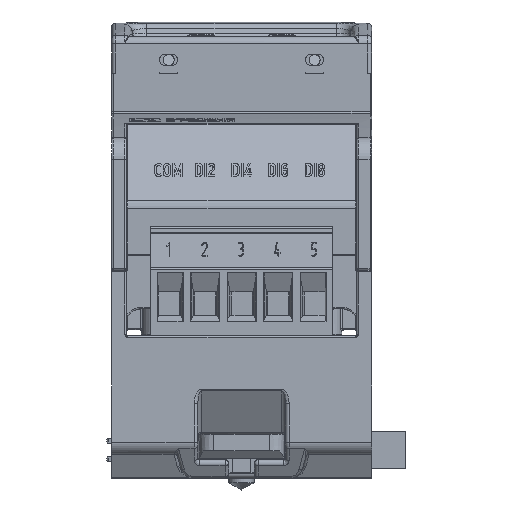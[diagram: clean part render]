
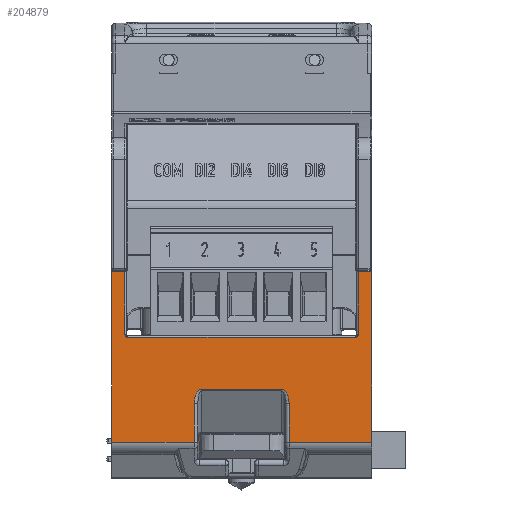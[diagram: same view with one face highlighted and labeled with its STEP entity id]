
A CAD part, front view. The second image highlights one B-rep face of the part: STEP entity #204879.
In plain terms, the highlighted planar face has unit normal (0, -1, 0).
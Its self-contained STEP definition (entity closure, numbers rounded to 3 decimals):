
#755 = CIRCLE ( 'NONE', #140441, 0.4 ) ;
#1521 = VERTEX_POINT ( 'NONE', #252826 ) ;
#2043 = DIRECTION ( 'NONE',  ( 1., 0., 0. ) ) ;
#3796 = VERTEX_POINT ( 'NONE', #170843 ) ;
#4273 = CARTESIAN_POINT ( 'NONE',  ( -6.5, -56., -17.132 ) ) ;
#11032 = VECTOR ( 'NONE', #215919, 1000. ) ;
#13371 = CARTESIAN_POINT ( 'NONE',  ( 6.5, -56., -23.574 ) ) ;
#14636 = VERTEX_POINT ( 'NONE', #16991 ) ;
#16991 = CARTESIAN_POINT ( 'NONE',  ( -6.5, -56., -23.574 ) ) ;
#19769 = LINE ( 'NONE', #204250, #26089 ) ;
#21354 = EDGE_CURVE ( 'NONE', #46534, #154511, #217622, .T. ) ;
#21631 = LINE ( 'NONE', #137536, #211179 ) ;
#24594 = CARTESIAN_POINT ( 'NONE',  ( -5.5, -56., -16.304 ) ) ;
#26089 = VECTOR ( 'NONE', #66513, 1000. ) ;
#30811 = CARTESIAN_POINT ( 'NONE',  ( -15.6, -56., -8.8 ) ) ;
#31220 = EDGE_CURVE ( 'NONE', #109394, #197613, #239161, .T. ) ;
#38495 = ORIENTED_EDGE ( 'NONE', *, *, #174917, .F. ) ;
#41942 = EDGE_LOOP ( 'NONE', ( #139122, #70612, #116113, #38495, #193053, #80907, #255957, #204236, #203547, #229847, #257404, #71299, #50165, #54656, #98617, #161434 ) ) ;
#43301 = EDGE_CURVE ( 'NONE', #169922, #201613, #21631, .T. ) ;
#45787 = CARTESIAN_POINT ( 'NONE',  ( -6.5, -56., -18.304 ) ) ;
#46534 = VERTEX_POINT ( 'NONE', #65068 ) ;
#47600 = DIRECTION ( 'NONE',  ( 0., 0., 1. ) ) ;
#49467 = VECTOR ( 'NONE', #91758, 1000. ) ;
#50165 = ORIENTED_EDGE ( 'NONE', *, *, #171256, .T. ) ;
#50296 = EDGE_CURVE ( 'NONE', #152136, #229641, #69944, .T. ) ;
#51664 = VECTOR ( 'NONE', #252223, 1000. ) ;
#54656 = ORIENTED_EDGE ( 'NONE', *, *, #103558, .T. ) ;
#58592 = AXIS2_PLACEMENT_3D ( 'NONE', #187300, #208466, #107056 ) ;
#59019 = VECTOR ( 'NONE', #243032, 1000. ) ;
#59405 = CARTESIAN_POINT ( 'NONE',  ( -15.8, -56., -9.2 ) ) ;
#61041 = LINE ( 'NONE', #128738, #51664 ) ;
#62590 = CARTESIAN_POINT ( 'NONE',  ( -17.8, -56., 0. ) ) ;
#64200 = EDGE_CURVE ( 'NONE', #201613, #199475, #83851, .T. ) ;
#65068 = CARTESIAN_POINT ( 'NONE',  ( -17.8, -56., -0.2 ) ) ;
#66513 = DIRECTION ( 'NONE',  ( 0., 0., 1. ) ) ;
#67540 = CARTESIAN_POINT ( 'NONE',  ( 6.5, -56., 0. ) ) ;
#69944 = LINE ( 'NONE', #59405, #82667 ) ;
#70612 = ORIENTED_EDGE ( 'NONE', *, *, #43301, .T. ) ;
#71299 = ORIENTED_EDGE ( 'NONE', *, *, #225027, .T. ) ;
#72506 = EDGE_CURVE ( 'NONE', #210312, #46534, #61041, .T. ) ;
#76908 = CARTESIAN_POINT ( 'NONE',  ( 5.5, -56., -16.304 ) ) ;
#77758 = LINE ( 'NONE', #67540, #260833 ) ;
#77782 = CARTESIAN_POINT ( 'NONE',  ( 6.086, -56., -16.304 ) ) ;
#78374 = CARTESIAN_POINT ( 'NONE',  ( -5.5, -56., -16.304 ) ) ;
#80907 = ORIENTED_EDGE ( 'NONE', *, *, #188667, .F. ) ;
#82667 = VECTOR ( 'NONE', #126489, 1000. ) ;
#83851 = LINE ( 'NONE', #192986, #11032 ) ;
#89412 = AXIS2_PLACEMENT_3D ( 'NONE', #121456, #120595, #179719 ) ;
#91758 = DIRECTION ( 'NONE',  ( 1., 0., 0. ) ) ;
#92598 = EDGE_CURVE ( 'NONE', #14636, #165330, #19769, .T. ) ;
#92781 = LINE ( 'NONE', #223717, #127460 ) ;
#92930 = PLANE ( 'NONE',  #58592 ) ;
#96003 = LINE ( 'NONE', #117000, #238038 ) ;
#96486 = CARTESIAN_POINT ( 'NONE',  ( 16., -56., -8.8 ) ) ;
#98427 =( BOUNDED_CURVE ( )  B_SPLINE_CURVE ( 3, ( #76908, #77782, #140385, #218966 ),
 .UNSPECIFIED., .F., .T. ) 
 B_SPLINE_CURVE_WITH_KNOTS ( ( 4, 4 ),
 ( 3.142, 4.712 ),
 .UNSPECIFIED. ) 
 CURVE ( )  GEOMETRIC_REPRESENTATION_ITEM ( )  RATIONAL_B_SPLINE_CURVE ( ( 1., 0.805, 0.805, 1. ) ) 
 REPRESENTATION_ITEM ( '' )  );
#98617 = ORIENTED_EDGE ( 'NONE', *, *, #159772, .T. ) ;
#98812 = CARTESIAN_POINT ( 'NONE',  ( 17.8, -56., -0.2 ) ) ;
#100301 = CARTESIAN_POINT ( 'NONE',  ( -16., -56., -0.2 ) ) ;
#101266 = CARTESIAN_POINT ( 'NONE',  ( -6.5, -56., -18.304 ) ) ;
#103558 = EDGE_CURVE ( 'NONE', #3796, #1521, #98427, .T. ) ;
#103701 = CARTESIAN_POINT ( 'NONE',  ( -16., -56., -8.8 ) ) ;
#104935 = CARTESIAN_POINT ( 'NONE',  ( 16., -56., -0.2 ) ) ;
#107056 = DIRECTION ( 'NONE',  ( 0., 0., 1. ) ) ;
#109394 = VERTEX_POINT ( 'NONE', #13371 ) ;
#112873 = LINE ( 'NONE', #245665, #59019 ) ;
#116113 = ORIENTED_EDGE ( 'NONE', *, *, #64200, .T. ) ;
#117000 = CARTESIAN_POINT ( 'NONE',  ( 17.8, -56., 0. ) ) ;
#120595 = DIRECTION ( 'NONE',  ( 0., -1., 0. ) ) ;
#121456 = CARTESIAN_POINT ( 'NONE',  ( 15.6, -56., -8.8 ) ) ;
#126489 = DIRECTION ( 'NONE',  ( -1., 0., 0. ) ) ;
#127460 = VECTOR ( 'NONE', #2043, 1000. ) ;
#128510 = DIRECTION ( 'NONE',  ( 0., 0., -1. ) ) ;
#128738 = CARTESIAN_POINT ( 'NONE',  ( 17.8, -56., -0.2 ) ) ;
#137536 = CARTESIAN_POINT ( 'NONE',  ( 17.8, -56., -0.2 ) ) ;
#138595 = DIRECTION ( 'NONE',  ( 0., 0., 1. ) ) ;
#139122 = ORIENTED_EDGE ( 'NONE', *, *, #162201, .F. ) ;
#140385 = CARTESIAN_POINT ( 'NONE',  ( 6.5, -56., -17.132 ) ) ;
#140441 = AXIS2_PLACEMENT_3D ( 'NONE', #30811, #190665, #47600 ) ;
#148345 =( BOUNDED_CURVE ( )  B_SPLINE_CURVE ( 3, ( #45787, #4273, #249751, #24594 ),
 .UNSPECIFIED., .F., .T. ) 
 B_SPLINE_CURVE_WITH_KNOTS ( ( 4, 4 ),
 ( 1.571, 3.142 ),
 .UNSPECIFIED. ) 
 CURVE ( )  GEOMETRIC_REPRESENTATION_ITEM ( )  RATIONAL_B_SPLINE_CURVE ( ( 1., 0.805, 0.805, 1. ) ) 
 REPRESENTATION_ITEM ( '' )  );
#152136 = VERTEX_POINT ( 'NONE', #227284 ) ;
#154511 = VERTEX_POINT ( 'NONE', #224176 ) ;
#159772 = EDGE_CURVE ( 'NONE', #1521, #109394, #77758, .T. ) ;
#161434 = ORIENTED_EDGE ( 'NONE', *, *, #31220, .T. ) ;
#162201 = EDGE_CURVE ( 'NONE', #169922, #197613, #96003, .T. ) ;
#163833 = VECTOR ( 'NONE', #203843, 1000. ) ;
#165330 = VERTEX_POINT ( 'NONE', #101266 ) ;
#169922 = VERTEX_POINT ( 'NONE', #98812 ) ;
#170843 = CARTESIAN_POINT ( 'NONE',  ( 5.5, -56., -16.304 ) ) ;
#171256 = EDGE_CURVE ( 'NONE', #238176, #3796, #92781, .T. ) ;
#174917 = EDGE_CURVE ( 'NONE', #152136, #199475, #236250, .T. ) ;
#179118 = CARTESIAN_POINT ( 'NONE',  ( -16., -56., 0. ) ) ;
#179719 = DIRECTION ( 'NONE',  ( 0., 0., 1. ) ) ;
#187300 = CARTESIAN_POINT ( 'NONE',  ( 17.8, -56., 0. ) ) ;
#187727 = CARTESIAN_POINT ( 'NONE',  ( 17.8, -56., -23.574 ) ) ;
#188667 = EDGE_CURVE ( 'NONE', #216074, #229641, #755, .T. ) ;
#190665 = DIRECTION ( 'NONE',  ( 0., -1., 0. ) ) ;
#192986 = CARTESIAN_POINT ( 'NONE',  ( 16., -56., -9. ) ) ;
#193053 = ORIENTED_EDGE ( 'NONE', *, *, #50296, .T. ) ;
#193234 = CARTESIAN_POINT ( 'NONE',  ( 17.8, -56., -23.574 ) ) ;
#197613 = VERTEX_POINT ( 'NONE', #187727 ) ;
#198419 = LINE ( 'NONE', #179118, #214175 ) ;
#199475 = VERTEX_POINT ( 'NONE', #96486 ) ;
#201613 = VERTEX_POINT ( 'NONE', #104935 ) ;
#203547 = ORIENTED_EDGE ( 'NONE', *, *, #21354, .T. ) ;
#203843 = DIRECTION ( 'NONE',  ( 0., 0., -1. ) ) ;
#204236 = ORIENTED_EDGE ( 'NONE', *, *, #72506, .T. ) ;
#204250 = CARTESIAN_POINT ( 'NONE',  ( -6.5, -56., 0. ) ) ;
#204879 = ADVANCED_FACE ( 'NONE', ( #258871 ), #92930, .F. ) ;
#208466 = DIRECTION ( 'NONE',  ( 0., 1., 0. ) ) ;
#210312 = VERTEX_POINT ( 'NONE', #100301 ) ;
#211179 = VECTOR ( 'NONE', #219521, 1000. ) ;
#213160 = EDGE_CURVE ( 'NONE', #216074, #210312, #198419, .T. ) ;
#214175 = VECTOR ( 'NONE', #138595, 1000. ) ;
#215919 = DIRECTION ( 'NONE',  ( 0., 0., -1. ) ) ;
#216074 = VERTEX_POINT ( 'NONE', #103701 ) ;
#217622 = LINE ( 'NONE', #62590, #163833 ) ;
#218966 = CARTESIAN_POINT ( 'NONE',  ( 6.5, -56., -18.304 ) ) ;
#219521 = DIRECTION ( 'NONE',  ( -1., 0., 0. ) ) ;
#223717 = CARTESIAN_POINT ( 'NONE',  ( 17.8, -56., -16.304 ) ) ;
#224176 = CARTESIAN_POINT ( 'NONE',  ( -17.8, -56., -23.574 ) ) ;
#225027 = EDGE_CURVE ( 'NONE', #165330, #238176, #148345, .T. ) ;
#225605 = EDGE_CURVE ( 'NONE', #154511, #14636, #112873, .T. ) ;
#227284 = CARTESIAN_POINT ( 'NONE',  ( 15.6, -56., -9.2 ) ) ;
#229641 = VERTEX_POINT ( 'NONE', #255477 ) ;
#229847 = ORIENTED_EDGE ( 'NONE', *, *, #225605, .T. ) ;
#236250 = CIRCLE ( 'NONE', #89412, 0.4 ) ;
#238038 = VECTOR ( 'NONE', #239585, 1000. ) ;
#238176 = VERTEX_POINT ( 'NONE', #78374 ) ;
#239161 = LINE ( 'NONE', #193234, #49467 ) ;
#239585 = DIRECTION ( 'NONE',  ( 0., 0., -1. ) ) ;
#243032 = DIRECTION ( 'NONE',  ( 1., 0., 0. ) ) ;
#245665 = CARTESIAN_POINT ( 'NONE',  ( 17.8, -56., -23.574 ) ) ;
#249751 = CARTESIAN_POINT ( 'NONE',  ( -6.086, -56., -16.304 ) ) ;
#252223 = DIRECTION ( 'NONE',  ( -1., 0., 0. ) ) ;
#252826 = CARTESIAN_POINT ( 'NONE',  ( 6.5, -56., -18.304 ) ) ;
#255477 = CARTESIAN_POINT ( 'NONE',  ( -15.6, -56., -9.2 ) ) ;
#255957 = ORIENTED_EDGE ( 'NONE', *, *, #213160, .T. ) ;
#257404 = ORIENTED_EDGE ( 'NONE', *, *, #92598, .T. ) ;
#258871 = FACE_OUTER_BOUND ( 'NONE', #41942, .T. ) ;
#260833 = VECTOR ( 'NONE', #128510, 1000. ) ;
